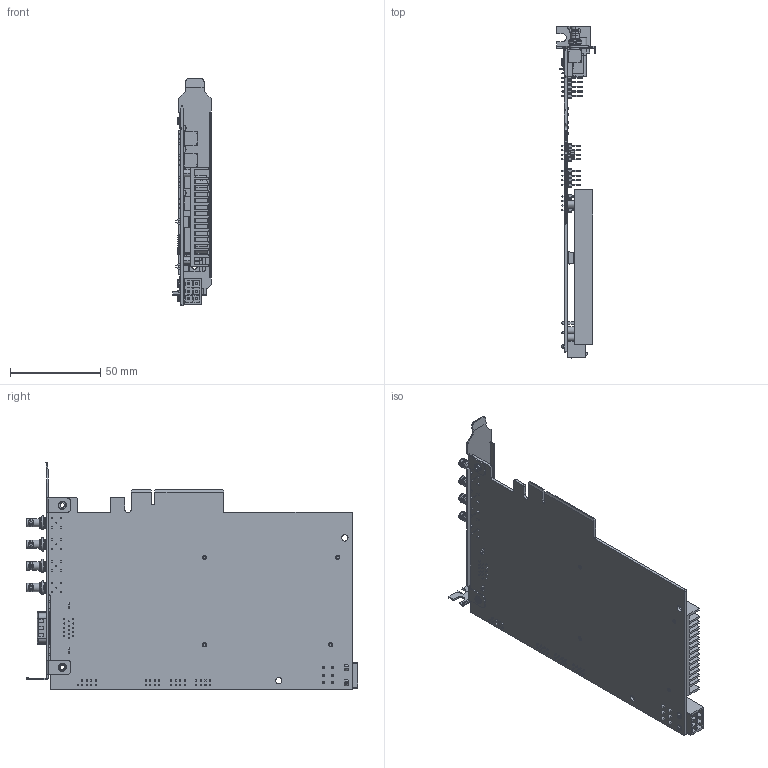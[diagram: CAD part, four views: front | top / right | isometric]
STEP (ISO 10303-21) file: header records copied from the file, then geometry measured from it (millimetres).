
FILE_DESCRIPTION((''),'2;1');
FILE_NAME('00-MV-20519-REV10_ASM','2024-05-21T19:25:35',('yanyucai'),(''),'CREO PARAMETRIC BY PTC INC, 2020044','CREO PARAMETRIC BY PTC INC, 2020044','');
FILE_SCHEMA(('CONFIG_CONTROL_DESIGN'));
Products named in the file (18): PCB-MV-20519-REV10; 101305831; HDR15M_8_89; 101305301; 101304647; ST-D4X4D2X1-F2X3-CU; 101400292; 101303165; 101302479; 100600296; 100600291; 100600542; MV-20519-REV10_ASM; DE-11-071772; DE-15-002721; DA-11-077825; DE-20-024735_ASM; 00-MV-20519-REV10_ASM
Assembly tree (31 placements, depth 3):
  00-MV-20519-REV10_ASM
    MV-20519-REV10_ASM
      PCB-MV-20519-REV10
      101305831  x4
      HDR15M_8_89
      101305301
      101304647
      ST-D4X4D2X1-F2X3-CU  x4
      101400292
      101303165  x3
      101302479
      100600296
      100600291  x4
      100600542  x4
    DE-11-071772
    DE-20-024735_ASM
      DE-15-002721
      DA-11-077825
Bounding box: 21.59 x 184.27 x 126.31 mm (x, y, z)
Volume: 53184.7 mm3; surface area: 85658.8 mm2
Topology: 30 solids, 83 shells, 4662 faces, 12731 edges, 8181 vertices
Faces by surface type: plane 2933, cylinder 1112, bspline 273, cone 165, torus 112, sphere 58, revolution 8, extrusion 1
Entity records: 131623 total; most frequent: CARTESIAN_POINT 42978, ORIENTED_EDGE 18249, DIRECTION 17640, EDGE_CURVE 9663, VECTOR 6822, LINE 6821, VERTEX_POINT 6313, AXIS2_PLACEMENT_3D 5408
